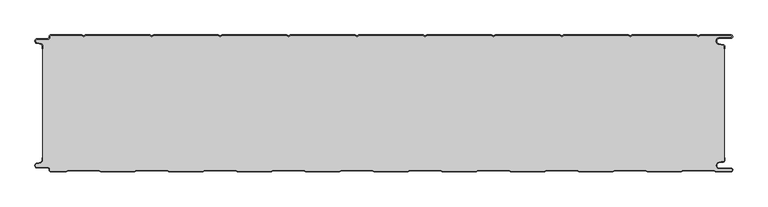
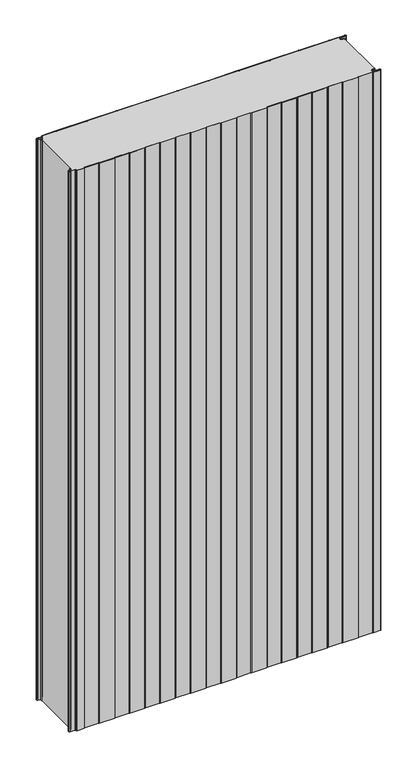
"""IFC4 building model written with IfcOpenShell, lengths in millimetres: plate geometry, PMH_Curtain-PaneL-Standard : ACH_PMH_Stone-wool-Panel_200M."""

from ifc_helpers import new_model, si_unit, point, frame_2d, origin, origin_with_axes, place, context, project, spatial, polyline, circle_curve, trimmed, segment, composite_curve, outline, extrude, source, transform, mapped, element, save


def plate_d92086c8(model_context):
    return source(origin(), model_context, "Body", "SweptSolid", [
        extrude(outline(composite_curve([segment(trimmed(circle_curve(frame_2d((-502.0, -15.878557)), 2.0), [point((-500.0, -15.878557))], [point((-501.5500978, -13.9298169))], True, "CARTESIAN"), True, "CONTINUOUS"), segment(polyline([(-501.5500978, -13.9298169), (-507.7098239, -12.507732)]), True, "CONTINUOUS"), segment(trimmed(circle_curve(frame_2d((-506.9, -9.0)), 3.6), [point((-507.7098239, -12.507732))], [point((-506.9, -5.4))], False, "CARTESIAN"), True, "CONTINUOUS"), segment(polyline([(-506.9, -5.4), (-491.4, -5.4)]), True, "CONTINUOUS"), segment(trimmed(circle_curve(frame_2d((-491.4, -3.4)), 2.0), [point((-491.4, -5.4))], [point((-489.4, -3.4))], True, "CARTESIAN"), True, "CONTINUOUS"), segment(polyline([(-489.4, -3.4), (-489.4, -2.0)]), True, "CONTINUOUS"), segment(trimmed(circle_curve(frame_2d((-487.4, -2.0)), 2.0), [point((-489.4, -2.0))], [point((-487.4, 0.0))], False, "CARTESIAN"), True, "CONTINUOUS"), segment(polyline([(-487.4, 0.0), (-442.0999995, 0.0), (-439.4, -1.5588455), (-436.7000005, 0.0), (-342.0999995, 0.0), (-339.4, -1.5588455), (-336.7000005, 0.0), (-242.0999995, 0.0), (-239.4, -1.5588455), (-236.7000005, 0.0), (-142.0999995, 0.0), (-139.4, -1.5588455), (-136.7000005, 0.0), (-42.0999995, 0.0), (-39.4, -1.5588455), (-36.7000005, 0.0), (57.9000005, 0.0), (60.6, -1.5588455), (63.2999995, 0.0), (157.9000005, 0.0), (160.6, -1.5588455), (163.2999995, 0.0), (257.9000005, 0.0), (260.6, -1.5588455), (263.2999995, 0.0), (357.9000005, 0.0), (360.6, -1.5588455), (363.2999995, 0.0), (457.9000005, 0.0), (460.6, -1.5588455), (463.2999995, 0.0), (508.1, 0.0)]), True, "CONTINUOUS"), segment(trimmed(circle_curve(frame_2d((508.1, -2.5)), 2.5), [point((508.1, 0.0))], [point((508.1, -5.0))], False, "CARTESIAN"), True, "CONTINUOUS"), segment(polyline([(508.1, -5.0), (491.1, -5.0)]), True, "CONTINUOUS"), segment(trimmed(circle_curve(frame_2d((491.1, -9.0)), 4.0), [point((491.1, -5.0))], [point((490.405407, -12.939231))], True, "CARTESIAN"), True, "CONTINUOUS"), segment(polyline([(490.405407, -12.939231), (496.8514855, -14.0758491)]), True, "CONTINUOUS"), segment(trimmed(circle_curve(frame_2d((496.4, -16.6363492)), 2.6), [point((496.8514855, -14.0758491))], [point((499.0, -16.6363492))], False, "CARTESIAN"), True, "CONTINUOUS"), segment(polyline([(499.0, -16.6363492), (499.0, -20.0), (498.2, -20.0), (498.2, -16.6363492)]), True, "CONTINUOUS"), segment(trimmed(circle_curve(frame_2d((496.4, -16.6363492)), 1.8), [point((498.2, -16.6363492))], [point((496.7125669, -14.8636953))], True, "CARTESIAN"), True, "CONTINUOUS"), segment(polyline([(496.7125669, -14.8636953), (490.2664884, -13.7270772)]), True, "CONTINUOUS"), segment(trimmed(circle_curve(frame_2d((491.1, -9.0)), 4.8), [point((490.2664884, -13.7270772))], [point((491.1, -4.2))], False, "CARTESIAN"), True, "CONTINUOUS"), segment(polyline([(491.1, -4.2), (508.1, -4.2)]), True, "CONTINUOUS"), segment(trimmed(circle_curve(frame_2d((508.1, -2.5)), 1.7), [point((508.1, -4.2))], [point((508.1, -0.8))], True, "CARTESIAN"), True, "CONTINUOUS"), segment(polyline([(508.1, -0.8), (463.5143588, -0.8), (460.6, -2.482606), (457.6856412, -0.8), (363.5143588, -0.8), (360.6, -2.482606), (357.6856412, -0.8), (263.5143588, -0.8), (260.6, -2.482606), (257.6856412, -0.8), (163.5143588, -0.8), (160.6, -2.482606), (157.6856412, -0.8), (63.5143588, -0.8), (60.6, -2.482606), (57.6856412, -0.8), (-36.4856412, -0.8), (-39.4, -2.482606), (-42.3143588, -0.8), (-136.4856412, -0.8), (-139.4, -2.482606), (-142.3143588, -0.8), (-236.4856412, -0.8), (-239.4, -2.482606), (-242.3143588, -0.8), (-336.4856412, -0.8), (-339.4, -2.482606), (-342.3143588, -0.8), (-436.4856412, -0.8), (-439.4, -2.482606), (-442.3143588, -0.8), (-487.4, -0.8)]), True, "CONTINUOUS"), segment(trimmed(circle_curve(frame_2d((-487.4, -2.0)), 1.2), [point((-487.4, -0.8))], [point((-488.6, -2.0))], True, "CARTESIAN"), True, "CONTINUOUS"), segment(polyline([(-488.6, -2.0), (-488.6, -3.4)]), True, "CONTINUOUS"), segment(trimmed(circle_curve(frame_2d((-491.4, -3.4)), 2.8), [point((-488.6, -3.4))], [point((-491.4, -6.2))], False, "CARTESIAN"), True, "CONTINUOUS"), segment(polyline([(-491.4, -6.2), (-506.9, -6.2)]), True, "CONTINUOUS"), segment(trimmed(circle_curve(frame_2d((-506.9, -9.0)), 2.8), [point((-506.9, -6.2))], [point((-507.529863, -11.7282362))], True, "CARTESIAN"), True, "CONTINUOUS"), segment(polyline([(-507.529863, -11.7282362), (-501.370137, -13.150321)]), True, "CONTINUOUS"), segment(trimmed(circle_curve(frame_2d((-502.0, -15.878557)), 2.8), [point((-501.370137, -13.150321))], [point((-499.2, -15.878557))], False, "CARTESIAN"), True, "CONTINUOUS"), segment(polyline([(-499.2, -15.878557), (-499.2, -20.0), (-500.0, -20.0), (-500.0, -15.878557)]), True, "CONTINUOUS")], self_intersect=False)), origin_with_axes(), (0.0, 0.0, 1.0), 1945.7507136),
        extrude(outline(composite_curve([segment(polyline([(-499.2, -184.121443), (-499.2, -15.8785573)]), True, "CONTINUOUS"), segment(trimmed(circle_curve(frame_2d((-502.0, -15.8785573)), 2.8), [point((-499.2, -15.8785573))], [point((-501.370137, -13.1503212))], True, "CARTESIAN"), True, "CONTINUOUS"), segment(polyline([(-501.370137, -13.1503212), (-507.5298631, -11.7282362)]), True, "CONTINUOUS"), segment(trimmed(circle_curve(frame_2d((-506.9, -9.0)), 2.8), [point((-507.5298631, -11.7282362))], [point((-506.9, -6.2))], False, "CARTESIAN"), True, "CONTINUOUS"), segment(polyline([(-506.9, -6.2), (-491.4000001, -6.2)]), True, "CONTINUOUS"), segment(trimmed(circle_curve(frame_2d((-491.4000001, -3.4)), 2.8), [point((-491.4000001, -6.2))], [point((-488.6000001, -3.4))], True, "CARTESIAN"), True, "CONTINUOUS"), segment(polyline([(-488.6000001, -3.4), (-488.6000001, -2.0)]), True, "CONTINUOUS"), segment(trimmed(circle_curve(frame_2d((-487.4000001, -2.0)), 1.2), [point((-488.6000001, -2.0))], [point((-487.4000001, -0.8))], False, "CARTESIAN"), True, "CONTINUOUS"), segment(polyline([(-487.4000001, -0.8), (-442.3143589, -0.8), (-439.4000001, -2.482606), (-436.4856412, -0.8), (-342.3143589, -0.8), (-339.4000001, -2.482606), (-336.4856412, -0.8), (-242.3143589, -0.8), (-239.4000001, -2.482606), (-236.4856412, -0.8), (-142.3143589, -0.8), (-139.4000001, -2.482606), (-136.4856412, -0.8), (-42.3143589, -0.8), (-39.4000001, -2.482606), (-36.4856412, -0.8), (57.6856411, -0.8), (60.5999999, -2.482606), (63.5143588, -0.8), (157.6856411, -0.8), (160.5999999, -2.482606), (163.5143588, -0.8), (257.6856411, -0.8), (260.5999999, -2.482606), (263.5143588, -0.8), (357.6856411, -0.8), (360.5999999, -2.482606), (363.5143588, -0.8), (457.6856411, -0.8), (460.5999999, -2.482606), (463.5143587, -0.8), (508.1, -0.8)]), True, "CONTINUOUS"), segment(trimmed(circle_curve(frame_2d((508.1, -2.5)), 1.7), [point((508.1, -0.8))], [point((508.1, -4.2))], False, "CARTESIAN"), True, "CONTINUOUS"), segment(polyline([(508.1, -4.2), (491.1, -4.2)]), True, "CONTINUOUS"), segment(trimmed(circle_curve(frame_2d((491.1, -9.0)), 4.8), [point((491.1, -4.2))], [point((490.2664883, -13.7270771))], True, "CARTESIAN"), True, "CONTINUOUS"), segment(polyline([(490.2664883, -13.7270771), (496.7125668, -14.8636953)]), True, "CONTINUOUS"), segment(trimmed(circle_curve(frame_2d((496.4, -16.6363492)), 1.8), [point((496.7125668, -14.8636953))], [point((498.2, -16.6363492))], False, "CARTESIAN"), True, "CONTINUOUS"), segment(polyline([(498.2, -16.6363492), (498.2, -183.363652)]), True, "CONTINUOUS"), segment(trimmed(circle_curve(frame_2d((496.4, -183.363652)), 1.8), [point((498.2, -183.363652))], [point((496.7125666, -185.1363059))], False, "CARTESIAN"), True, "CONTINUOUS"), segment(polyline([(496.7125666, -185.1363059), (490.266489, -186.272923)]), True, "CONTINUOUS"), segment(trimmed(circle_curve(frame_2d((491.1, -191.0000002)), 4.7999999), [point((490.266489, -186.272923))], [point((491.1, -195.8000001))], True, "CARTESIAN"), True, "CONTINUOUS"), segment(polyline([(491.1, -195.8000001), (508.1, -195.8000001)]), True, "CONTINUOUS"), segment(trimmed(circle_curve(frame_2d((508.1, -197.5)), 1.7), [point((508.1, -195.8000001))], [point((508.1, -199.2))], False, "CARTESIAN"), True, "CONTINUOUS"), segment(polyline([(508.1, -199.2), (485.8105122, -199.2), (483.2124346, -197.7), (437.9837184, -197.7), (435.3856408, -199.2), (385.8105122, -199.2), (383.2124346, -197.7), (337.9837184, -197.7), (335.3856408, -199.2), (285.8105122, -199.2), (283.2124346, -197.7), (237.9837184, -197.7), (235.3856408, -199.2), (185.8105122, -199.2), (183.2124346, -197.7), (137.9837184, -197.7), (135.3856408, -199.2), (85.8105122, -199.2), (83.2124346, -197.7), (37.9837184, -197.7), (35.3856408, -199.2), (-14.1894878, -199.2), (-16.7875654, -197.7), (-62.0162816, -197.7), (-64.6143592, -199.2), (-114.1894878, -199.2), (-116.7875654, -197.7), (-162.0162816, -197.7), (-164.6143592, -199.2), (-214.1894878, -199.2), (-216.7875654, -197.7), (-262.0162816, -197.7), (-264.6143592, -199.2), (-314.1894878, -199.2), (-316.7875654, -197.7), (-362.0162816, -197.7), (-364.6143592, -199.2), (-414.1894878, -199.2), (-416.7875654, -197.7), (-462.0162816, -197.7), (-464.6143592, -199.2), (-487.4, -199.2)]), True, "CONTINUOUS"), segment(trimmed(circle_curve(frame_2d((-487.4, -198.0)), 1.2), [point((-487.4, -199.2))], [point((-488.6, -198.0))], False, "CARTESIAN"), True, "CONTINUOUS"), segment(polyline([(-488.6, -198.0), (-488.6, -196.5999998)]), True, "CONTINUOUS"), segment(trimmed(circle_curve(frame_2d((-491.4, -196.5999998)), 2.8), [point((-488.6, -196.5999998))], [point((-491.4, -193.7999998))], True, "CARTESIAN"), True, "CONTINUOUS"), segment(polyline([(-491.4, -193.7999998), (-506.9, -193.7999998)]), True, "CONTINUOUS"), segment(trimmed(circle_curve(frame_2d((-506.9, -191.0)), 2.7999998), [point((-506.9, -193.7999998))], [point((-507.529863, -188.271764))], False, "CARTESIAN"), True, "CONTINUOUS"), segment(polyline([(-507.529863, -188.271764), (-501.370137, -186.8496792)]), True, "CONTINUOUS"), segment(trimmed(circle_curve(frame_2d((-502.0, -184.121443)), 2.8), [point((-501.370137, -186.8496792))], [point((-499.2, -184.121443))], True, "CARTESIAN"), True, "CONTINUOUS")], self_intersect=False)), origin_with_axes(), (0.0, 0.0, 1.0), 1945.7507136),
        extrude(outline(composite_curve([segment(trimmed(circle_curve(frame_2d((-487.4, -198.0)), 2.0), [point((-487.4, -200.0))], [point((-489.4, -198.0))], False, "CARTESIAN"), True, "CONTINUOUS"), segment(polyline([(-489.4, -198.0), (-489.4, -196.6)]), True, "CONTINUOUS"), segment(trimmed(circle_curve(frame_2d((-491.4, -196.6)), 2.0), [point((-489.4, -196.6))], [point((-491.4, -194.6))], True, "CARTESIAN"), True, "CONTINUOUS"), segment(polyline([(-491.4, -194.6), (-506.9, -194.6)]), True, "CONTINUOUS"), segment(trimmed(circle_curve(frame_2d((-506.9, -191.0)), 3.6), [point((-506.9, -194.6))], [point((-507.7098239, -187.4922678))], False, "CARTESIAN"), True, "CONTINUOUS"), segment(polyline([(-507.7098239, -187.4922678), (-501.5500979, -186.070183)]), True, "CONTINUOUS"), segment(trimmed(circle_curve(frame_2d((-502.0, -184.121443)), 2.0), [point((-501.5500979, -186.070183))], [point((-500.0, -184.121443))], True, "CARTESIAN"), True, "CONTINUOUS"), segment(polyline([(-500.0, -184.121443), (-500.0, -180.0), (-499.2, -180.0), (-499.2, -184.121443)]), True, "CONTINUOUS"), segment(trimmed(circle_curve(frame_2d((-502.0, -184.121443)), 2.8), [point((-499.2, -184.121443))], [point((-501.370137, -186.8496792))], False, "CARTESIAN"), True, "CONTINUOUS"), segment(polyline([(-501.370137, -186.8496792), (-507.529863, -188.271764)]), True, "CONTINUOUS"), segment(trimmed(circle_curve(frame_2d((-506.9, -191.0)), 2.8), [point((-507.529863, -188.271764))], [point((-506.9, -193.8))], True, "CARTESIAN"), True, "CONTINUOUS"), segment(polyline([(-506.9, -193.8), (-491.4, -193.8)]), True, "CONTINUOUS"), segment(trimmed(circle_curve(frame_2d((-491.4, -196.6)), 2.8), [point((-491.4, -193.8))], [point((-488.6, -196.6))], False, "CARTESIAN"), True, "CONTINUOUS"), segment(polyline([(-488.6, -196.6), (-488.6, -198.0)]), True, "CONTINUOUS"), segment(trimmed(circle_curve(frame_2d((-487.4, -198.0)), 1.2), [point((-488.6, -198.0))], [point((-487.4, -199.2))], True, "CARTESIAN"), True, "CONTINUOUS"), segment(polyline([(-487.4, -199.2), (-464.6143592, -199.2), (-462.0162816, -197.7), (-416.7875654, -197.7), (-414.1894878, -199.2), (-364.6143592, -199.2), (-362.0162816, -197.7), (-316.7875654, -197.7), (-314.1894878, -199.2), (-264.6143592, -199.2), (-262.0162816, -197.7), (-216.7875654, -197.7), (-214.1894878, -199.2), (-164.6143592, -199.2), (-162.0162816, -197.7), (-116.7875654, -197.7), (-114.1894878, -199.2), (-64.6143592, -199.2), (-62.0162816, -197.7), (-16.7875654, -197.7), (-14.1894878, -199.2), (35.3856408, -199.2), (37.9837184, -197.7), (83.2124346, -197.7), (85.8105122, -199.2), (135.3856408, -199.2), (137.9837184, -197.7), (183.2124346, -197.7), (185.8105122, -199.2), (235.3856408, -199.2), (237.9837184, -197.7), (283.2124346, -197.7), (285.8105122, -199.2), (335.3856408, -199.2), (337.9837184, -197.7), (383.2124346, -197.7), (385.8105122, -199.2), (435.3856408, -199.2), (437.9837184, -197.7), (483.2124346, -197.7), (485.8105122, -199.2), (508.1, -199.2)]), True, "CONTINUOUS"), segment(trimmed(circle_curve(frame_2d((508.1, -197.5)), 1.7), [point((508.1, -199.2))], [point((508.1, -195.8))], True, "CARTESIAN"), True, "CONTINUOUS"), segment(polyline([(508.1, -195.8), (491.1, -195.8)]), True, "CONTINUOUS"), segment(trimmed(circle_curve(frame_2d((491.1, -191.0)), 4.8), [point((491.1, -195.8))], [point((490.266489, -186.2729227))], False, "CARTESIAN"), True, "CONTINUOUS"), segment(polyline([(490.266489, -186.2729227), (496.7125666, -185.1363058)]), True, "CONTINUOUS"), segment(trimmed(circle_curve(frame_2d((496.4, -183.363652)), 1.8), [point((496.7125666, -185.1363058))], [point((498.2, -183.363652))], True, "CARTESIAN"), True, "CONTINUOUS"), segment(polyline([(498.2, -183.363652), (498.2, -180.0), (499.0, -180.0), (499.0, -183.363652)]), True, "CONTINUOUS"), segment(trimmed(circle_curve(frame_2d((496.4, -183.363652)), 2.6), [point((499.0, -183.363652))], [point((496.8514851, -185.9241522))], False, "CARTESIAN"), True, "CONTINUOUS"), segment(polyline([(496.8514851, -185.9241522), (490.4054075, -187.0607691)]), True, "CONTINUOUS"), segment(trimmed(circle_curve(frame_2d((491.1, -191.0)), 4.0), [point((490.4054075, -187.0607691))], [point((491.1, -195.0))], True, "CARTESIAN"), True, "CONTINUOUS"), segment(polyline([(491.1, -195.0), (508.1, -195.0)]), True, "CONTINUOUS"), segment(trimmed(circle_curve(frame_2d((508.1, -197.5)), 2.5), [point((508.1, -195.0))], [point((508.1, -200.0))], False, "CARTESIAN"), True, "CONTINUOUS"), segment(polyline([(508.1, -200.0), (485.5961529, -200.0), (482.9980753, -198.5), (438.1980777, -198.5), (435.6000001, -200.0), (385.5961529, -200.0), (382.9980753, -198.5), (338.1980777, -198.5), (335.6000001, -200.0), (285.5961529, -200.0), (282.9980753, -198.5), (238.1980777, -198.5), (235.6000001, -200.0), (185.5961529, -200.0), (182.9980753, -198.5), (138.1980777, -198.5), (135.6000001, -200.0), (85.5961529, -200.0), (82.9980753, -198.5), (38.1980777, -198.5), (35.6000001, -200.0), (-14.4038471, -200.0), (-17.0019247, -198.5), (-61.8019223, -198.5), (-64.3999999, -200.0), (-114.4038471, -200.0), (-117.0019247, -198.5), (-161.8019223, -198.5), (-164.3999999, -200.0), (-214.4038471, -200.0), (-217.0019247, -198.5), (-261.8019223, -198.5), (-264.3999999, -200.0), (-314.4038471, -200.0), (-317.0019247, -198.5), (-361.8019223, -198.5), (-364.3999999, -200.0), (-414.4038471, -200.0), (-417.0019247, -198.5), (-461.8019223, -198.5), (-464.3999999, -200.0), (-487.4, -200.0)]), True, "CONTINUOUS")], self_intersect=False)), origin_with_axes(), (0.0, 0.0, 1.0), 1945.7507136),
    ])


if __name__ == "__main__":
    model = new_model("IFC4")
    model_context = context("Model", 3, world=origin())
    ifc_project = project(units=[si_unit("LENGTHUNIT", "METRE", prefix="MILLI")], contexts=[model_context])
    site = spatial("IfcSite", under=ifc_project)
    building = spatial("IfcBuilding", under=site)
    placement = place(None, origin())
    plate_shape = plate_d92086c8(model_context)
    element("IfcPlate", 1, ObjectType="PMH_Curtain-PaneL-Standard : ACH_PMH_Stone-wool-Panel_200M", at=placement, inside=building, context=model_context, shape_type="MappedRepresentation", body=[
        mapped(plate_shape, transform((0.0, 0.0, 0.0), x_axis=(1.0, 0.0, 0.0), y_axis=(0.0, 1.0, 0.0), z_axis=(0.0, 0.0, 1.0))),
    ])
    save(model, "model.ifc")
